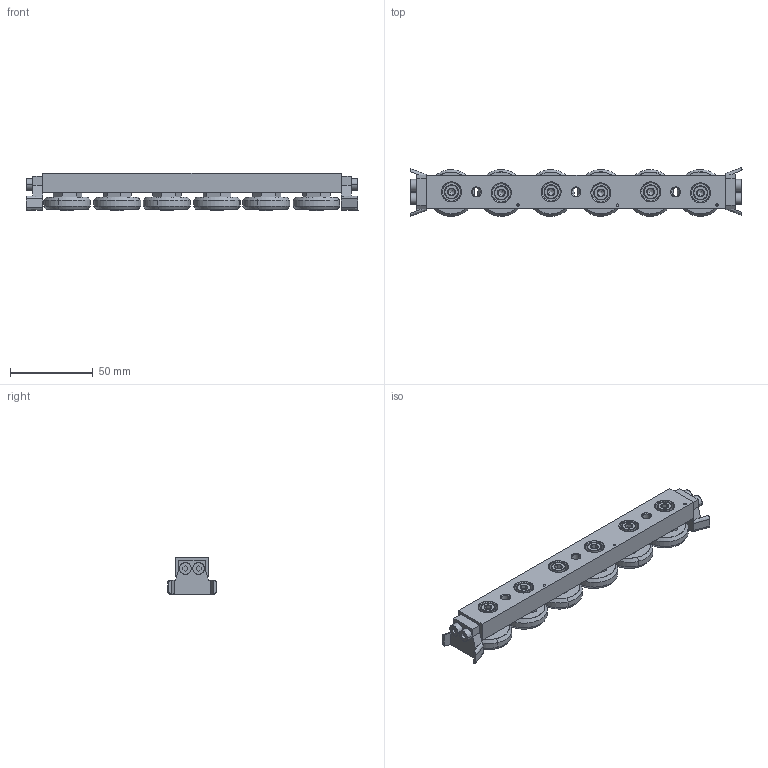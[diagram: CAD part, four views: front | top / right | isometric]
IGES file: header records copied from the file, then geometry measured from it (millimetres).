
Start section: SolidWorks IGES file using analytic representation for surfaces
Global section: file name: C:\Users\liam_\OneDrive\Documents\WORK\Work for WixRoyd\Job Files\J-00018 - L1918-L1963 LCompact Rail\L1935_v2\L1935.CSW35_v2\L1935.CSW35_v2_20190522_IGES\L1935.CSW35-180-2RSUA.igs; native system: SolidWorks 2017; preprocessor: SolidWorks 2017; author: liam_; date: 190528.223135; units: millimetre
Bounding box: 200 x 29.44 x 22.85 mm (x, y, z)
Surface area: 32198.5 mm2 (no closed solid volume)
Topology: 0 solids, 0 shells, 588 faces, 7070 edges, 7034 vertices
Faces by surface type: revolution 316, bspline 272
